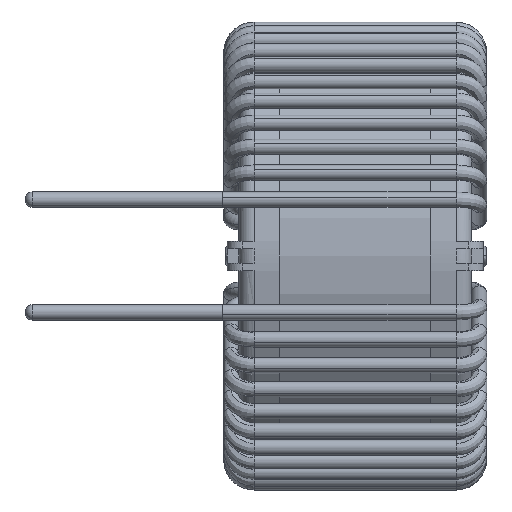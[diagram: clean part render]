
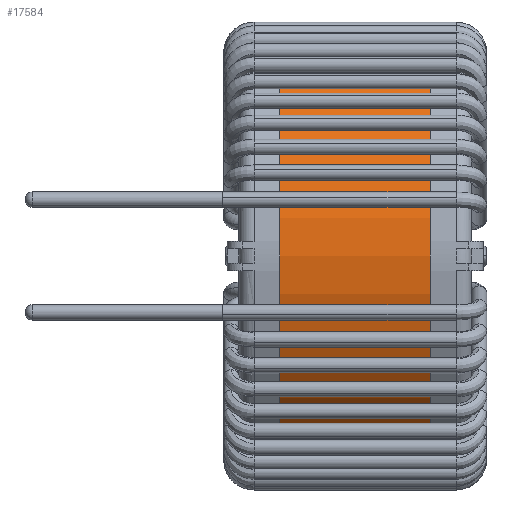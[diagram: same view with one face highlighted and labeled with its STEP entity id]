
A CAD part, left-side view. The second image highlights one B-rep face of the part: STEP entity #17584.
In plain terms, the highlighted cylindrical face has radius 14.65 mm (diameter 29.3 mm), a partial arc.
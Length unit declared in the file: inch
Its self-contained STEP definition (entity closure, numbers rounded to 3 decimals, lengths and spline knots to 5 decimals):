
#75 = VECTOR ( 'NONE', #2883, 39.37008 ) ;
#607 = ORIENTED_EDGE ( 'NONE', *, *, #65425, .T. ) ;
#1916 = DIRECTION ( 'NONE',  ( 0., 0., 1. ) ) ;
#2206 = CARTESIAN_POINT ( 'NONE',  ( 0., 0.19685, 0. ) ) ;
#2637 = VECTOR ( 'NONE', #47470, 39.37008 ) ;
#2883 = DIRECTION ( 'NONE',  ( 0., -1., 0. ) ) ;
#3555 = CIRCLE ( 'NONE', #38581, 0.57677 ) ;
#5700 = DIRECTION ( 'NONE',  ( 0., -1., 0. ) ) ;
#7809 = AXIS2_PLACEMENT_3D ( 'NONE', #46608, #5700, #21878 ) ;
#9003 = EDGE_CURVE ( 'NONE', #13617, #27721, #15297, .T. ) ;
#10202 = AXIS2_PLACEMENT_3D ( 'NONE', #19082, #28865, #1916 ) ;
#13617 = VERTEX_POINT ( 'NONE', #23679 ) ;
#15297 = LINE ( 'NONE', #57367, #2637 ) ;
#17584 = ADVANCED_FACE ( 'NONE', ( #29394 ), #54172, .T. ) ;
#19082 = CARTESIAN_POINT ( 'NONE',  ( 0., -0.19685, 0. ) ) ;
#21878 = DIRECTION ( 'NONE',  ( 0., 0., -1. ) ) ;
#22791 = EDGE_CURVE ( 'NONE', #51569, #27721, #36187, .T. ) ;
#23679 = CARTESIAN_POINT ( 'NONE',  ( 0., 0.19685, 0.57677 ) ) ;
#24722 = DIRECTION ( 'NONE',  ( 0., 0., 1. ) ) ;
#27721 = VERTEX_POINT ( 'NONE', #51083 ) ;
#28865 = DIRECTION ( 'NONE',  ( 0., 1., 0. ) ) ;
#29394 = FACE_OUTER_BOUND ( 'NONE', #41246, .T. ) ;
#30822 = EDGE_CURVE ( 'NONE', #43706, #13617, #3555, .T. ) ;
#34133 = LINE ( 'NONE', #41646, #75 ) ;
#36187 = CIRCLE ( 'NONE', #10202, 0.57677 ) ;
#38581 = AXIS2_PLACEMENT_3D ( 'NONE', #2206, #63554, #24722 ) ;
#41246 = EDGE_LOOP ( 'NONE', ( #62549, #54501, #607, #50095 ) ) ;
#41646 = CARTESIAN_POINT ( 'NONE',  ( 0., 0.19685, -0.57677 ) ) ;
#41704 = CARTESIAN_POINT ( 'NONE',  ( 0., -0.19685, -0.57677 ) ) ;
#43706 = VERTEX_POINT ( 'NONE', #56738 ) ;
#46608 = CARTESIAN_POINT ( 'NONE',  ( 0., 0.19685, 0. ) ) ;
#47470 = DIRECTION ( 'NONE',  ( 0., -1., 0. ) ) ;
#50095 = ORIENTED_EDGE ( 'NONE', *, *, #22791, .T. ) ;
#51083 = CARTESIAN_POINT ( 'NONE',  ( 0., -0.19685, 0.57677 ) ) ;
#51569 = VERTEX_POINT ( 'NONE', #41704 ) ;
#54172 = CYLINDRICAL_SURFACE ( 'NONE', #7809, 0.57677 ) ;
#54501 = ORIENTED_EDGE ( 'NONE', *, *, #30822, .F. ) ;
#56738 = CARTESIAN_POINT ( 'NONE',  ( 0., 0.19685, -0.57677 ) ) ;
#57367 = CARTESIAN_POINT ( 'NONE',  ( 0., 0.19685, 0.57677 ) ) ;
#62549 = ORIENTED_EDGE ( 'NONE', *, *, #9003, .F. ) ;
#63554 = DIRECTION ( 'NONE',  ( 0., 1., 0. ) ) ;
#65425 = EDGE_CURVE ( 'NONE', #43706, #51569, #34133, .T. ) ;
